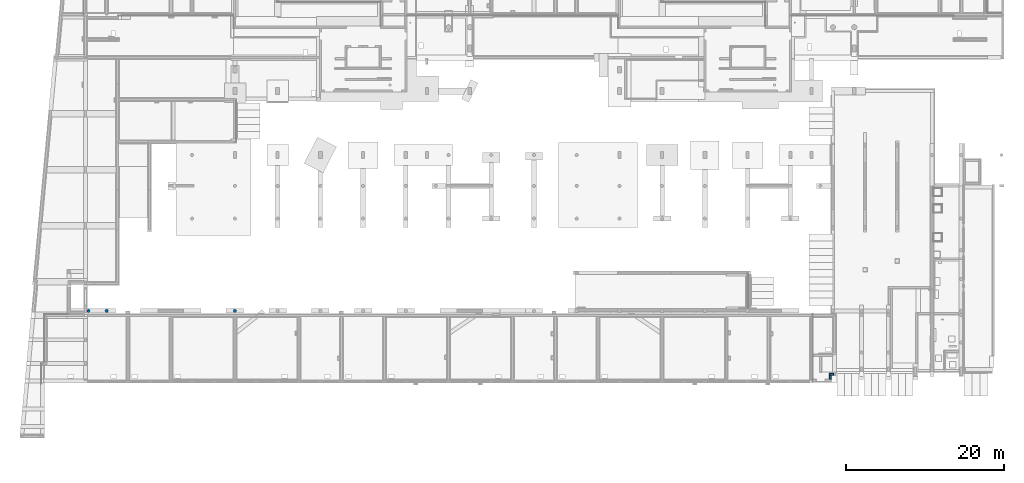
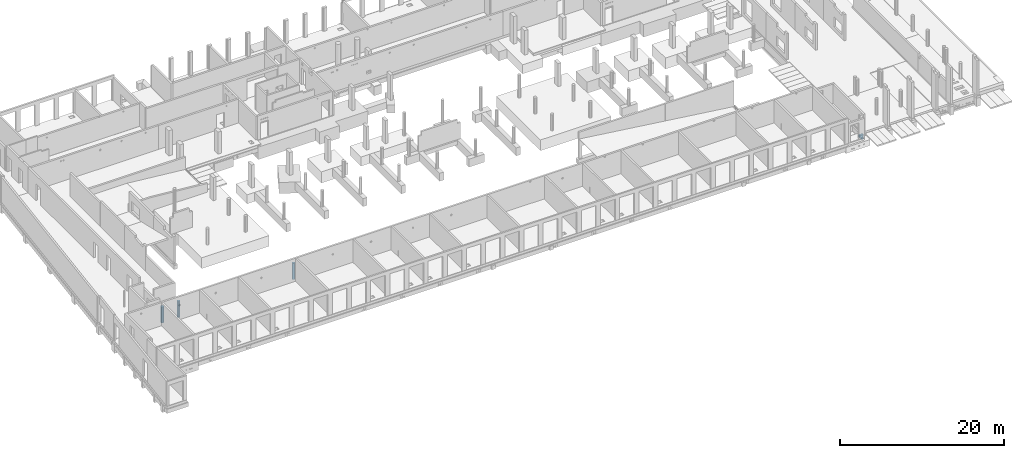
# One storey, part 12 of 60: 3 columns, 2 footings.
"""IFC2X3 building model written with IfcOpenShell, lengths in millimetres."""

from ifc_helpers import new_model, entity, si_unit, converted_unit, derived_unit, direction, frame, frame_2d, origin, place, context, subcontext, project, spatial, circle, extrude, faceted_brep, source, transform, mapped, material, type_object, type_shapes, element, save


model = new_model("IFC2X3")

# Units and contexts
model_context = context("Model", 3, precision=0.01, world=origin(), true_north=direction((6.12303176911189e-17, 1.0)))
body_context = subcontext(model_context, "Body", "Model", "MODEL_VIEW")
ifc_project = project(units=[si_unit("LENGTHUNIT", "METRE", prefix="MILLI"), si_unit("AREAUNIT", "SQUARE_METRE"), si_unit("VOLUMEUNIT", "CUBIC_METRE"), converted_unit("PLANEANGLEUNIT", "DEGREE", entity("IfcRatioMeasure", 0.0174532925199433), si_unit("PLANEANGLEUNIT", "RADIAN"), dimensions=[0, 0, 0, 0, 0, 0, 0]), si_unit("MASSUNIT", "GRAM", prefix="KILO"), derived_unit("MASSDENSITYUNIT", [(si_unit("MASSUNIT", "GRAM", prefix="KILO"), 1), (si_unit("LENGTHUNIT", "METRE"), -3)]), si_unit("TIMEUNIT", "SECOND"), si_unit("FREQUENCYUNIT", "HERTZ"), si_unit("THERMODYNAMICTEMPERATUREUNIT", "DEGREE_CELSIUS"), derived_unit("THERMALTRANSMITTANCEUNIT", [(si_unit("MASSUNIT", "GRAM", prefix="KILO"), 1), (si_unit("THERMODYNAMICTEMPERATUREUNIT", "KELVIN"), -1), (si_unit("TIMEUNIT", "SECOND"), -3)]), derived_unit("VOLUMETRICFLOWRATEUNIT", [(si_unit("LENGTHUNIT", "METRE"), 3), (si_unit("TIMEUNIT", "SECOND"), -1)]), si_unit("ELECTRICCURRENTUNIT", "AMPERE"), si_unit("ELECTRICVOLTAGEUNIT", "VOLT"), si_unit("POWERUNIT", "WATT"), si_unit("FORCEUNIT", "NEWTON", prefix="KILO"), si_unit("ILLUMINANCEUNIT", "LUX"), si_unit("LUMINOUSFLUXUNIT", "LUMEN"), si_unit("LUMINOUSINTENSITYUNIT", "CANDELA"), derived_unit("USERDEFINED", [(si_unit("MASSUNIT", "GRAM", prefix="KILO"), -1), (si_unit("LENGTHUNIT", "METRE"), -2), (si_unit("TIMEUNIT", "SECOND"), 3), (si_unit("LUMINOUSFLUXUNIT", "LUMEN"), 1)]), derived_unit("LINEARVELOCITYUNIT", [(si_unit("LENGTHUNIT", "METRE"), 1), (si_unit("TIMEUNIT", "SECOND"), -1)]), si_unit("PRESSUREUNIT", "PASCAL"), derived_unit("USERDEFINED", [(si_unit("LENGTHUNIT", "METRE"), -2), (si_unit("MASSUNIT", "GRAM", prefix="KILO"), 1), (si_unit("TIMEUNIT", "SECOND"), -2)])], contexts=[model_context])

# Site, building, storey
site_placement = place(None, origin())
site = spatial("IfcSite", under=ifc_project, at=site_placement, Name="Default", CompositionType="ELEMENT")
building_placement = place(site_placement, origin())
building = spatial("IfcBuilding", under=site, at=building_placement, Name="niet gebruiken", CompositionType="ELEMENT")
storey_placement = place(building_placement, origin())
storey = spatial("IfcBuildingStorey", under=building, at=storey_placement, Name="00 begane grond", CompositionType="ELEMENT", Elevation=0.0)

# Footings
ifc_material_1 = material(Name="NLRS_f2_beton ihwg")
footing_1_placement = place(storey_placement, frame((102125.000278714, 535.0, -492.0)))
element("IfcFooting", 1, at=footing_1_placement, inside=storey, material=ifc_material_1, Name="NLRS_16.12_SF_WPB_opstort ihwg recht_gen:250x292", ObjectType="NLRS_16.12_SF_WPB_opstort ihwg recht_gen:250x292", PredefinedType="FOOTING_BEAM", context=body_context, shape_type="Brep", body=[
    faceted_brep([(0.0, 0.0, 292.0), (0.0, 0.0, 0.0), (250.0, 0.0, 0.0), (250.0, 0.0, 292.0), (0.0, 515.0, 292.0), (250.0, 515.0, 292.0), (250.0, 515.0, 0.0), (0.0, 515.0, 0.0)], [[[0, 1, 2, 3]], [[4, 5, 6, 7]], [[1, 0, 4, 7]], [[2, 1, 7, 6]], [[3, 2, 6, 5]], [[0, 3, 5, 4]]]),
])
footing_2_placement = place(storey_placement, frame((102125.000278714, 1050.0, -492.0)))
element("IfcFooting", 2, at=footing_2_placement, inside=storey, material=ifc_material_1, Name="NLRS_16.12_SF_WPB_opstort ihwg recht_gen:250x292", ObjectType="NLRS_16.12_SF_WPB_opstort ihwg recht_gen:250x292", PredefinedType="FOOTING_BEAM", context=body_context, shape_type="Brep", body=[
    faceted_brep([(549.999721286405, 0.0, 292.0), (549.999721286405, 0.0, 0.0), (549.999721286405, 250.0, 0.0), (549.999721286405, 250.0, 292.0), (0.0, 0.0, 292.0), (0.0, 250.0, 292.0), (0.0, 250.0, 0.0), (0.0, 0.0, 0.0)], [[[0, 1, 2, 3]], [[4, 5, 6, 7]], [[1, 0, 4, 7]], [[2, 1, 7, 6]], [[3, 2, 6, 5]], [[0, 3, 5, 4]]]),
])

# Columns
ifc_material_2 = material(Name="NLRS_f2_beton prefab")
column_type = type_object("IfcColumnType", Name="ø400", PredefinedType="COLUMN", material=ifc_material_2)
shared_shape = source(origin(), body_context, "Body", "SweptSolid", [
    extrude(circle(Radius=200.0, at=frame_2d((1.69197988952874e-14, -3.02923644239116e-13), x_axis=(1.0, 0.0))), frame((0.0, 0.0, -170.0)), (0.0, 0.0, 1.0), 2390.00000000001),
])
type_shapes(column_type, [shared_shape])
for number, where in (
    (3, (8500.0, 9196.0, 0.0)),
    (4, (10800.0, 9196.0, 0.0)),
    (5, (27000.0, 9196.0, 0.0)),
):
    element("IfcColumn", number, at=place(storey_placement, frame(where)), inside=storey, type_object=column_type, material=ifc_material_2, Name="NLRS_28. kolom rond_gen:ø400", ObjectType="ø400", context=body_context, shape_type="MappedRepresentation", body=[
        mapped(shared_shape, transform((0.0, 0.0, 0.0), scale=1.0)),
    ])

save(model, "model.ifc")
